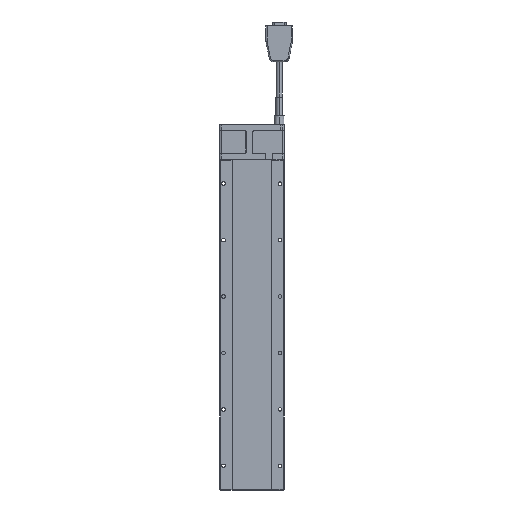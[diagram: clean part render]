
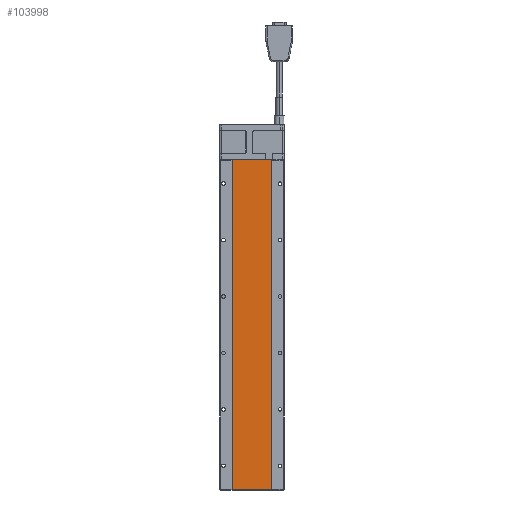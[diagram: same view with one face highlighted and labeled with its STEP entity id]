
A CAD part, front view. The second image highlights one B-rep face of the part: STEP entity #103998.
In plain terms, the highlighted planar face has unit normal (0, -1, 0).
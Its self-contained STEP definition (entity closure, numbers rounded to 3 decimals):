
#1044 = DIRECTION ( 'NONE',  ( 0., 0., -1. ) ) ;
#3588 = VECTOR ( 'NONE', #95913, 1000. ) ;
#6580 = LINE ( 'NONE', #87193, #10611 ) ;
#8571 = CARTESIAN_POINT ( 'NONE',  ( -24.3, 0.5, 409.8 ) ) ;
#10611 = VECTOR ( 'NONE', #118247, 1000. ) ;
#13426 = VERTEX_POINT ( 'NONE', #22573 ) ;
#14330 = EDGE_CURVE ( 'NONE', #114521, #136648, #19678, .T. ) ;
#19678 = LINE ( 'NONE', #8571, #46025 ) ;
#22573 = CARTESIAN_POINT ( 'NONE',  ( -24.3, 0.5, 0.2 ) ) ;
#32579 = AXIS2_PLACEMENT_3D ( 'NONE', #76281, #41555, #130265 ) ;
#41555 = DIRECTION ( 'NONE',  ( 0., 1., 0. ) ) ;
#43499 = VECTOR ( 'NONE', #1044, 1000. ) ;
#46025 = VECTOR ( 'NONE', #120244, 1000. ) ;
#58718 = EDGE_CURVE ( 'NONE', #94077, #114521, #6580, .T. ) ;
#64665 = EDGE_LOOP ( 'NONE', ( #74376, #69455, #99970, #99312 ) ) ;
#69455 = ORIENTED_EDGE ( 'NONE', *, *, #123079, .T. ) ;
#74376 = ORIENTED_EDGE ( 'NONE', *, *, #130004, .T. ) ;
#76281 = CARTESIAN_POINT ( 'NONE',  ( -24.3, 0.5, 409.8 ) ) ;
#87193 = CARTESIAN_POINT ( 'NONE',  ( 24.3, 0.5, 0.2 ) ) ;
#90592 = CARTESIAN_POINT ( 'NONE',  ( -24.3, 0.5, 0.2 ) ) ;
#94077 = VERTEX_POINT ( 'NONE', #99252 ) ;
#95913 = DIRECTION ( 'NONE',  ( 1., 0., 0. ) ) ;
#99252 = CARTESIAN_POINT ( 'NONE',  ( 24.3, 0.5, 0.2 ) ) ;
#99312 = ORIENTED_EDGE ( 'NONE', *, *, #14330, .T. ) ;
#99970 = ORIENTED_EDGE ( 'NONE', *, *, #58718, .T. ) ;
#103114 = LINE ( 'NONE', #90592, #43499 ) ;
#103998 = ADVANCED_FACE ( 'NONE', ( #108125 ), #142780, .F. ) ;
#108125 = FACE_OUTER_BOUND ( 'NONE', #64665, .T. ) ;
#113410 = CARTESIAN_POINT ( 'NONE',  ( 24.3, 0.5, 409.8 ) ) ;
#114521 = VERTEX_POINT ( 'NONE', #113410 ) ;
#118247 = DIRECTION ( 'NONE',  ( 0., 0., 1. ) ) ;
#120244 = DIRECTION ( 'NONE',  ( -1., 0., 0. ) ) ;
#123079 = EDGE_CURVE ( 'NONE', #13426, #94077, #140220, .T. ) ;
#130004 = EDGE_CURVE ( 'NONE', #136648, #13426, #103114, .T. ) ;
#130265 = DIRECTION ( 'NONE',  ( -1., 0., 0. ) ) ;
#130610 = CARTESIAN_POINT ( 'NONE',  ( -24.3, 0.5, 0.2 ) ) ;
#134342 = CARTESIAN_POINT ( 'NONE',  ( -24.3, 0.5, 409.8 ) ) ;
#136648 = VERTEX_POINT ( 'NONE', #134342 ) ;
#140220 = LINE ( 'NONE', #130610, #3588 ) ;
#142780 = PLANE ( 'NONE',  #32579 ) ;
